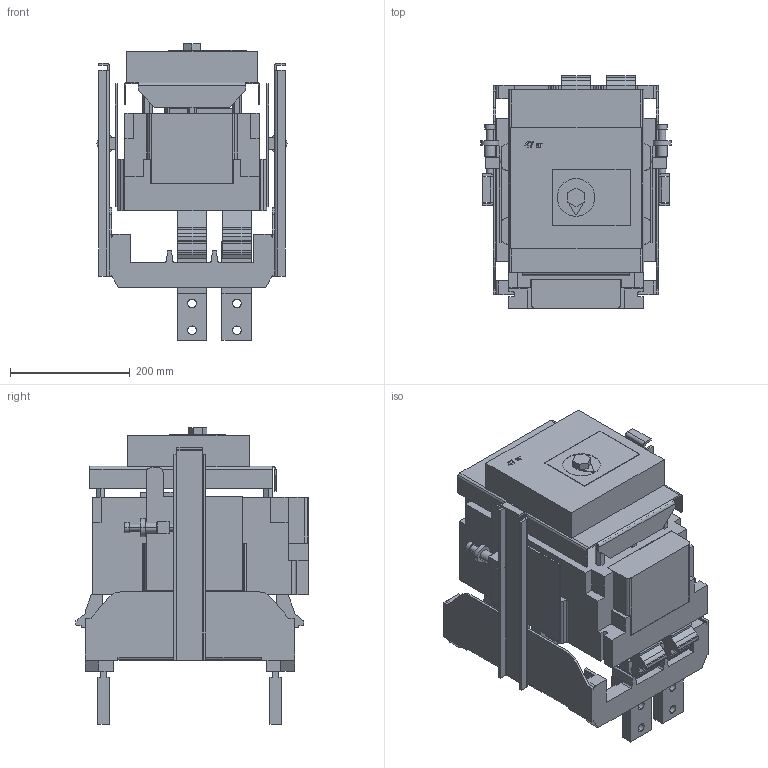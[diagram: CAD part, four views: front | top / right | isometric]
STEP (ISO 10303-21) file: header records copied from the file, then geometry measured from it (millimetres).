
FILE_DESCRIPTION (( 'STEP AP214' ), '1' );
FILE_NAME ('ÂÀ53(55)-41 ÂÈ ñ ÝÌ ïðèâîäîì DC.STEP', '2023-02-13T11:28:33', ( 'user' ), ( '' ), 'SwSTEP 2.0', 'SolidWorks 2018', '' );
FILE_SCHEMA (( 'AUTOMOTIVE_DESIGN' ));
Length unit declared in the file: millimetre
Products named in the file (1): ÂÀ53(55)-41 ÂÈ ñ ÝÌ ïðèâîäîì DC
Bounding box: 318 x 388.85 x 496.15 mm (x, y, z)
Volume: 19042417.4 mm3; surface area: 1358066.1 mm2
Topology: 1 solids, 1 shells, 725 faces, 2124 edges, 1415 vertices
Faces by surface type: plane 527, cylinder 187, cone 7, bspline 4
Entity records: 24251 total; most frequent: CARTESIAN_POINT 4542, ORIENTED_EDGE 4240, DIRECTION 3915, EDGE_CURVE 2120, LINE 1707, VECTOR 1707, VERTEX_POINT 1415, AXIS2_PLACEMENT_3D 1104
